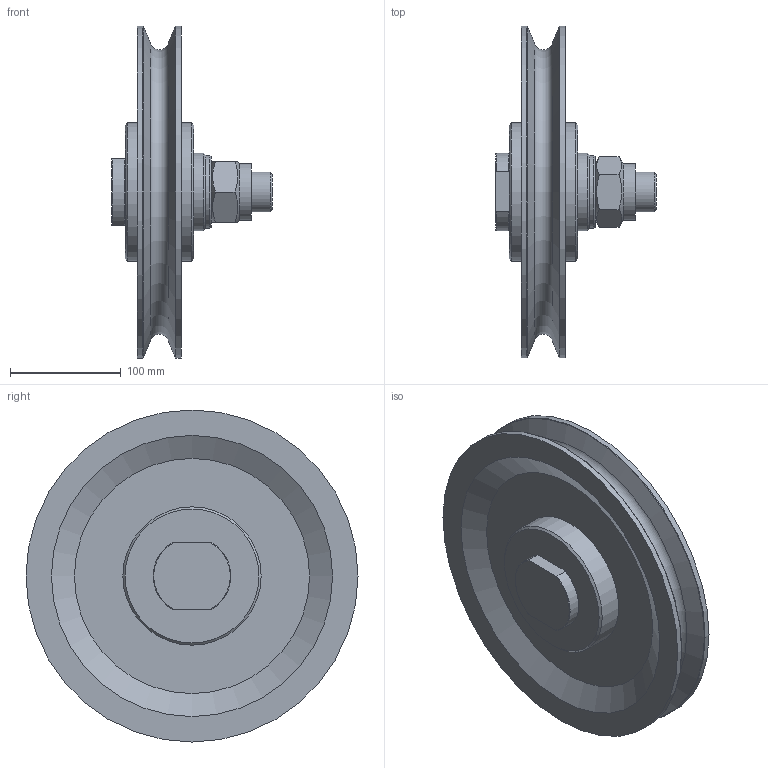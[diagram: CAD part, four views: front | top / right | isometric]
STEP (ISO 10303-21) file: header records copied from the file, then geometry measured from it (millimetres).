
FILE_DESCRIPTION(/* description */ ('Seilrolle ø300 feststehende Achse'),/* implementation_level */ '2;1');
FILE_NAME(/* name */ 'Z:\Workspace\03 Seilrollen\1.408 Seilrollen feststehende Achse Gleitlager\1.408.08 Seilrolle ø300 feststehende Achse GL\1.408.08 Seilrolle ø300 feststehende Achse.stp',/* time_stamp */ '2022-02-01T09:39:31+01:00',/* author */ ('cad-user'),/* organization */ (''),/* preprocessor_version */ 'ST-DEVELOPER v18',/* originating_system */ 'Autodesk Inventor 2020',/* authorisation */ '');
FILE_SCHEMA (('AUTOMOTIVE_DESIGN { 1 0 10303 214 3 1 1 }'));
Length unit declared in the file: millimetre
Products named in the file (8): 1.408.08 Seilrolle ø300 feststehende Achse; 1.401.08 Seilrolle ø300 Buchse komplett; 1.401.08 Seilrolle ø300 Buchse; Lagerbuchse 5030-DU; 1.408.08.02 Scheibe; 1.408.08.01 Schraube; DIN 985 - M36; DIN 125-1 - B 37
Assembly tree (8 placements, depth 3):
  1.408.08 Seilrolle ø300 feststehende Achse
    1.401.08 Seilrolle ø300 Buchse komplett
      1.401.08 Seilrolle ø300 Buchse
      Lagerbuchse 5030-DU  x2
    1.408.08.02 Scheibe
    1.408.08.01 Schraube
    DIN 985 - M36
    DIN 125-1 - B 37
Bounding box: 145 x 300 x 300 mm (x, y, z)
Volume: 2199238.9 mm3; surface area: 303617.1 mm2
Topology: 7 solids, 7 shells, 77 faces, 182 edges, 121 vertices
Faces by surface type: plane 32, cone 21, cylinder 21, torus 3
Full cylindrical faces by diameter (mm): 31.67 x1, 36 x1, 37 x1, 38 x1, 50 x1, 51.1 x1, 55 x1, 66 x1, 70 x1, 125 x2, 300 x2
Entity records: 2318 total; most frequent: CARTESIAN_POINT 402, DIRECTION 393, ORIENTED_EDGE 322, AXIS2_PLACEMENT_3D 172, EDGE_CURVE 161, VERTEX_POINT 109, CIRCLE 88, EDGE_LOOP 82
